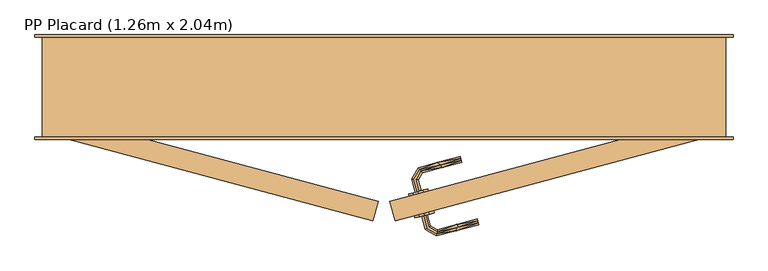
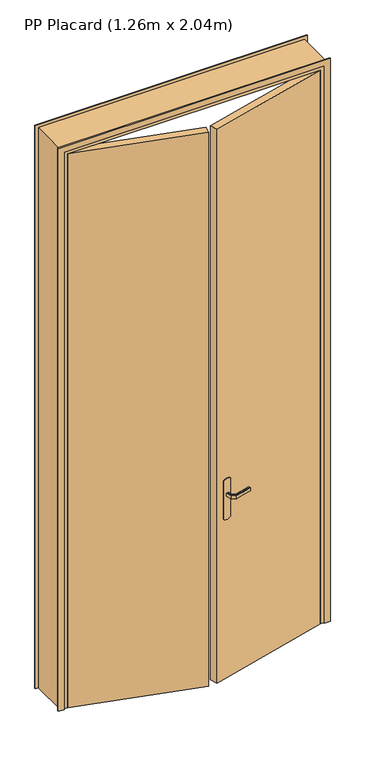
"""IFC4 building model written with IfcOpenShell, lengths in millimetres: door geometry, PP Placard (1.26m x 2.04m)."""

import ifcopenshell
import ifcopenshell.guid

model = None  # the IFC model being written
_history = None  # IfcOwnerHistory: only IFC2X3 demands one
_inside = {}  # id of a spatial element -> (the spatial element, [elements in it])
_under = {}  # id of a project, library or spatial element -> (it, [spatial elements below it])
_declared = {}  # id of a project -> (the project, [libraries it declares])
_typed = {}  # id of a type object -> (the type object, [elements of that type])
_made_of = {}  # id of a material, layer set ... -> (it, [elements and type objects made of it])


def new_model(schema):
    """Start an empty IFC model of exactly this schema.

    Asked for "IFC4X3", IfcOpenShell would pick the latest addendum, in which some entities
    have other attributes; the version numbers below select the first issue.
    IFC2X3 requires an IfcOwnerHistory on every rooted entity: one is made here for all.
    """
    global model, _history
    if schema == "IFC4X3":
        model = ifcopenshell.file(schema_version=(4, 3, 0, 0))
    else:
        model = ifcopenshell.file(schema=schema)
    _inside.clear()
    _under.clear()
    _declared.clear()
    _typed.clear()
    _made_of.clear()
    _history = None
    if model.schema == "IFC2X3":
        org = make("IfcOrganization", Name="unknown")
        user = make(
            "IfcPersonAndOrganization",
            ThePerson=make("IfcPerson", FamilyName="unknown"),
            TheOrganization=org,
        )
        app = make(
            "IfcApplication",
            ApplicationDeveloper=org,
            Version="unknown",
            ApplicationFullName="unknown",
            ApplicationIdentifier="unknown",
        )
        _history = make(
            "IfcOwnerHistory",
            OwningUser=user,
            OwningApplication=app,
            ChangeAction="ADDED",
            CreationDate=0,
        )
    return model


def make(cls, **values):
    """One entity of the class cls with the attributes given. An attribute that is None is left unset."""
    return model.create_entity(
        cls, **{name: value for name, value in values.items() if value is not None}
    )


def rooted(cls, **values):
    """An entity with a GlobalId (a new one), such as an element, a storey or a relation."""
    return make(cls, GlobalId=ifcopenshell.guid.new(), OwnerHistory=_history, **values)


def si_unit(unit_type, name, prefix=None):
    """IfcSIUnit, for example si_unit("LENGTHUNIT", "METRE", prefix="MILLI")."""
    return make("IfcSIUnit", UnitType=unit_type, Prefix=prefix, Name=name)


def assignment(units):
    """IfcUnitAssignment: the units of a project."""
    return None if units is None else make("IfcUnitAssignment", Units=units)


def point(xyz):
    """IfcCartesianPoint."""
    return None if xyz is None else make("IfcCartesianPoint", Coordinates=xyz)


def direction(xyz):
    """IfcDirection."""
    return None if xyz is None else make("IfcDirection", DirectionRatios=xyz)


def frame(location, z_axis=None, x_axis=None):
    """IfcAxis2Placement3D, a coordinate frame: its origin and axes. An axis left out is left unset."""
    return make(
        "IfcAxis2Placement3D",
        Location=point(location),
        Axis=direction(z_axis),
        RefDirection=direction(x_axis),
    )


def origin():
    """The frame at (0, 0, 0) with its axes left unset."""
    return frame((0.0, 0.0, 0.0))


def origin_with_axes():
    """The frame at (0, 0, 0) with the z axis (0, 0, 1) and the x axis (1, 0, 0) written out."""
    return frame((0.0, 0.0, 0.0), z_axis=(0.0, 0.0, 1.0), x_axis=(1.0, 0.0, 0.0))


def place(relative_to, where):
    """IfcLocalPlacement: puts the frame where relative to a parent placement (None: the world)."""
    return make(
        "IfcLocalPlacement", PlacementRelTo=relative_to, RelativePlacement=where
    )


def context(
    kind, dimensions, precision=None, world=None, true_north=None, identifier=None
):
    """IfcGeometricRepresentationContext, for example the 3D "Model" context."""
    return make(
        "IfcGeometricRepresentationContext",
        ContextIdentifier=identifier,
        ContextType=kind,
        CoordinateSpaceDimension=dimensions,
        Precision=precision,
        WorldCoordinateSystem=world,
        TrueNorth=true_north,
    )


def project(units=None, contexts=None):
    """IfcProject with its units and contexts."""
    return rooted(
        "IfcProject",
        Name="project",
        RepresentationContexts=contexts,
        UnitsInContext=assignment(units),
    )


def spatial(cls, under=None, at=None, **own):
    """A site, building, storey or space (cls), placed at a placement, below another one or the project."""
    s = rooted(cls, ObjectPlacement=at, **own)
    if under is not None:
        _under.setdefault(under.id(), (under, []))[1].append(s)
    return s


def polyline(points):
    """IfcPolyline through the points."""
    return make("IfcPolyline", Points=[point(p) for p in points])


def outline(outer, holes=None, kind="AREA"):
    """IfcArbitraryClosedProfileDef: a profile drawn as a closed curve; with holes, ...WithVoids."""
    if holes is None:
        return make("IfcArbitraryClosedProfileDef", ProfileType=kind, OuterCurve=outer)
    return make(
        "IfcArbitraryProfileDefWithVoids",
        ProfileType=kind,
        OuterCurve=outer,
        InnerCurves=holes,
    )


def extrude(swept, where, along, depth):
    """IfcExtrudedAreaSolid: the profile swept, set in the frame where, extruded along a direction by depth."""
    return make(
        "IfcExtrudedAreaSolid",
        SweptArea=swept,
        Position=where,
        ExtrudedDirection=direction(along),
        Depth=depth,
    )


def faces_of(points, faces, orient=None, outer=None):
    """IfcFace entities. A face is a list of loops; a loop is a list of indices into points, from 0.

    orient and outer hold one flag for each loop. By default every Orientation is true, the
    first loop of a face is its IfcFaceOuterBound and the others are IfcFaceBound.
    """
    made = []
    for i, loops in enumerate(faces):
        bounds = []
        for j, loop in enumerate(loops):
            is_outer = j == 0 if outer is None else outer[i][j]
            bounds.append(
                make(
                    "IfcFaceOuterBound" if is_outer else "IfcFaceBound",
                    Bound=make("IfcPolyLoop", Polygon=[points[k] for k in loop]),
                    Orientation=True if orient is None else orient[i][j],
                )
            )
        made.append(make("IfcFace", Bounds=bounds))
    return made


def faceted_brep(points, faces, orient=None, outer=None, voids=None):
    """IfcFacetedBrep: a solid bounded by flat faces; with voids (closed shells), ...WithVoids."""
    shared = [point(p) for p in points]
    hull = make("IfcClosedShell", CfsFaces=faces_of(shared, faces, orient, outer))
    if voids is None:
        return make("IfcFacetedBrep", Outer=hull)
    return make(
        "IfcFacetedBrepWithVoids",
        Outer=hull,
        Voids=[
            make(cls, CfsFaces=faces_of(shared, fs, o, b)) for cls, fs, o, b in voids
        ],
    )


def shape(context_of_items, identifier, shape_type, items):
    """IfcShapeRepresentation: the items that make up one representation, for example the "Body"."""
    return make(
        "IfcShapeRepresentation",
        ContextOfItems=context_of_items,
        RepresentationIdentifier=identifier,
        RepresentationType=shape_type,
        Items=items,
    )


def source(mapping_origin, context_of_items, identifier, shape_type, items):
    """IfcRepresentationMap: a shape defined once, which mapped items show again and again."""
    return make(
        "IfcRepresentationMap",
        MappingOrigin=mapping_origin,
        MappedRepresentation=shape(context_of_items, identifier, shape_type, items),
    )


def transform(
    local_origin,
    x_axis=None,
    y_axis=None,
    z_axis=None,
    scale=None,
    scale2=None,
    scale3=None,
    uniform=True,
):
    """IfcCartesianTransformationOperator3D, or its non-uniform kind. x_axis, y_axis, z_axis: its Axis1, 2, 3."""
    if uniform:
        return make(
            "IfcCartesianTransformationOperator3D",
            Axis1=direction(x_axis),
            Axis2=direction(y_axis),
            LocalOrigin=point(local_origin),
            Scale=scale,
            Axis3=direction(z_axis),
        )
    return make(
        "IfcCartesianTransformationOperator3DnonUniform",
        Axis1=direction(x_axis),
        Axis2=direction(y_axis),
        LocalOrigin=point(local_origin),
        Scale=scale,
        Axis3=direction(z_axis),
        Scale2=scale2,
        Scale3=scale3,
    )


def mapped(mapping_source, mapping_target):
    """IfcMappedItem: shows the shape of a source again, moved by a transform."""
    return make(
        "IfcMappedItem", MappingSource=mapping_source, MappingTarget=mapping_target
    )


def made_of(thing, what):
    """Note that an element or type object is made of a material, layer set ...; save() writes the relation."""
    if what is not None:
        _made_of.setdefault(what.id(), (what, []))[1].append(thing)
    return thing


def element(
    cls,
    number,
    at=None,
    inside=None,
    cuts=None,
    type_object=None,
    material=None,
    context=None,
    identifier="Body",
    shape_type=None,
    held_by="IfcProductDefinitionShape",
    body=None,
    shapes=None,
    **own,
):
    """One element of the class cls, such as IfcWall. Its Tag is "e" and its number.

    at: its placement. inside: the storey or other place that contains it. cuts: it is an
    opening in that element (IfcRelVoidsElement). A single representation is given by context,
    identifier, shape_type and body (its items); several are given by shapes. held_by: the class
    of the entity that holds the representations. save() writes the other relations.
    """
    e = rooted(cls, Tag="e%d" % number, ObjectPlacement=at, **own)
    if body is not None:
        shapes = [shape(context, identifier, shape_type, body)]
    if shapes is not None:
        e.Representation = make(held_by, Representations=shapes)
    if inside is not None:
        _inside.setdefault(inside.id(), (inside, []))[1].append(e)
    if cuts is not None:
        rooted(
            "IfcRelVoidsElement", RelatingBuildingElement=cuts, RelatedOpeningElement=e
        )
    if type_object is not None:
        _typed.setdefault(type_object.id(), (type_object, []))[1].append(e)
    return made_of(e, material)


def aggregate(whole, parts):
    """IfcRelAggregates: a whole, such as a stair, and the parts it consists of."""
    return rooted("IfcRelAggregates", RelatingObject=whole, RelatedObjects=parts)


def save(model, path):
    """Write the relations noted so far, then the file.

    IfcRelAggregates (storeys below a building ...), IfcRelContainedInSpatialStructure (elements
    in a storey), IfcRelDefinesByType, IfcRelAssociatesMaterial and IfcRelDeclares: one each for
    every whole, place, type object, material and project.
    """
    for whole, parts in _under.values():
        aggregate(whole, parts)
    for where, things in _inside.values():
        rooted(
            "IfcRelContainedInSpatialStructure",
            RelatedElements=things,
            RelatingStructure=where,
        )
    for kind, things in _typed.values():
        rooted("IfcRelDefinesByType", RelatedObjects=things, RelatingType=kind)
    for what, things in _made_of.values():
        rooted("IfcRelAssociatesMaterial", RelatedObjects=things, RelatingMaterial=what)
    for by, libraries in _declared.values():
        rooted("IfcRelDeclares", RelatingContext=by, RelatedDefinitions=libraries)
    model.write(path)


def pp_placard_1_26m_x_2_04m_73cf4f1e(model_context):
    return source(origin(), model_context, "Body", "SolidModel", [
        extrude(outline(polyline([(0.0, -15.0), (0.0, 15.0), (3030.0, 15.0), (3030.0, 1355.0), (0.0, 1355.0), (0.0, 1385.0), (3060.0, 1385.0), (3060.0, -15.0), (0.0, -15.0)])), frame((0.0, 200.0, 0.0), z_axis=(0.0, 1.0, 0.0), x_axis=(0.0, 0.0, 1.0)), (0.0, 0.0, 1.0), 5.0),
        extrude(outline(polyline([(0.0, -15.0), (0.0, 15.0), (3030.0, 15.0), (3030.0, 1355.0), (0.0, 1355.0), (0.0, 1385.0), (3060.0, 1385.0), (3060.0, -15.0), (0.0, -15.0)])), frame((0.0, -5.0, 0.0), z_axis=(0.0, 1.0, 0.0), x_axis=(0.0, 0.0, 1.0)), (0.0, 0.0, 1.0), 5.0),
        faceted_brep([(0.0, 0.0, 0.0), (0.0, 200.0, 0.0), (50.0, 200.0, 0.0), (50.0, 40.0, 0.0), (35.0, 40.0, 0.0), (35.0, 0.0, 0.0), (0.0, 0.0, 3045.0), (0.0, 200.0, 3045.0), (1370.0, 200.0, 3045.0), (1370.0, 200.0, 0.0), (1320.0, 200.0, 0.0), (1320.0, 200.0, 2995.0), (50.0, 200.0, 2995.0), (50.0, 40.0, 2995.0), (1320.0, 40.0, 2995.0), (1320.0, 40.0, 0.0), (1335.0, 40.0, 0.0), (1335.0, 40.0, 3010.0), (35.0, 40.0, 3010.0), (35.0, 0.0, 3010.0), (1335.0, 0.0, 3010.0), (1335.0, 0.0, 0.0), (1370.0, 0.0, 0.0), (1370.0, 0.0, 3045.0)], [[[0, 1, 2, 3, 4, 5]], [[1, 0, 6, 7]], [[2, 1, 7, 8, 9, 10, 11, 12]], [[3, 2, 12, 13]], [[4, 3, 13, 14, 15, 16, 17, 18]], [[5, 4, 18, 19]], [[0, 5, 19, 20, 21, 22, 23, 6]], [[8, 23, 22, 9]], [[22, 21, 16, 15, 10, 9]], [[14, 11, 10, 15]], [[20, 17, 16, 21]], [[7, 6, 23, 8]], [[13, 12, 11, 14]], [[19, 18, 17, 20]]]),
        extrude(outline(polyline([(673.2045489, -129.5953463), (662.8517871, -168.2323793), (35.0, 0.0), (45.3527618, 38.6370331), (673.2045489, -129.5953463)])), origin_with_axes(), (0.0, 0.0, 1.0), 3010.0),
        faceted_brep([(764.4415694, -158.0570516, 1007.7804408), (768.354146, -157.0086799, 1007.7804408), (772.1934127, -155.9799515, 1007.0), (772.1934127, -155.9799515, 993.0), (768.354146, -157.0086799, 992.2195592), (764.4415694, -158.0570516, 992.2195592), (760.6023028, -159.08578, 993.0), (760.6023028, -159.08578, 1007.0), (767.7588954, -185.7945474, 1007.0), (771.1720488, -183.1755427, 1007.7804408), (790.827837, -194.5238173, 1007.7804408), (791.4001076, -190.1769909, 1007.7804408), (774.6503756, -180.5065287, 1007.7804408), (778.063529, -177.8875239, 1007.0), (778.063529, -177.8875239, 993.0), (774.6503756, -180.5065287, 992.2195592), (791.4001076, -190.1769909, 992.2195592), (790.827837, -194.5238173, 992.2195592), (771.1720488, -183.1755427, 992.2195592), (767.7588954, -185.7945474, 993.0), (790.2662891, -198.7891972, 1007.0), (791.9616555, -185.911611, 1007.0), (791.9616555, -185.911611, 993.0), (790.2662891, -198.7891972, 993.0), (874.9214104, -176.1059258, 993.0), (873.892682, -172.2666592, 992.2195592), (872.8443102, -168.3540826, 992.2195592), (871.8155818, -164.5148159, 993.0), (871.8155818, -164.5148159, 1007.0), (872.8443102, -168.3540826, 1007.7804408), (873.892682, -172.2666592, 1007.7804408), (874.9214104, -176.1059258, 1007.0), (828.836178, -188.4544266, 1007.0), (832.6463948, -181.221825, 1007.8786868), (831.8886187, -175.2132135, 1007.0), (831.8886187, -175.2132135, 993.0), (832.6463946, -181.2218252, 992.1213132), (828.8361809, -188.4544259, 993.0)], [[[0, 1, 2, 3, 4, 5, 6, 7]], [[8, 9, 0, 7]], [[9, 10, 11, 12, 1, 0]], [[12, 13, 2, 1]], [[3, 2, 13, 14]], [[14, 15, 4, 3]], [[15, 16, 17, 18, 5, 4]], [[18, 19, 6, 5]], [[7, 6, 19, 8]], [[20, 10, 9, 8]], [[11, 21, 13, 12]], [[14, 13, 21, 22]], [[22, 16, 15, 14]], [[17, 23, 19, 18]], [[8, 19, 23, 20]], [[24, 25, 26, 27, 28, 29, 30, 31]], [[32, 30, 33]], [[31, 30, 32]], [[10, 20, 32]], [[33, 34, 11]], [[21, 11, 34]], [[34, 29, 28]], [[30, 29, 33]], [[29, 34, 33]], [[10, 32, 33]], [[10, 33, 11]], [[22, 21, 34, 28, 27, 35]], [[35, 26, 36]], [[37, 36, 25]], [[22, 35, 16]], [[35, 27, 26]], [[24, 37, 25]], [[23, 17, 37]], [[37, 17, 36]], [[17, 16, 36]], [[16, 35, 36]], [[25, 36, 26]], [[20, 23, 37, 24, 31, 32]]]),
        extrude(outline(polyline([(0.0, 0.0), (3.0658951, 9.9818657), (212.1249722, 29.8389109), (217.015302, 20.6127508), (219.3510918, 10.4352539), (218.9731616, 0.0), (215.9072666, -9.9818657), (6.8481894, -29.8389108), (1.9578596, -20.6127508), (-0.3779302, -10.4352539), (0.0, 0.0)])), frame((776.3978577, -154.8533738, 866.0039831), z_axis=(-0.2588190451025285, 0.9659258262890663, 0.0), x_axis=(-0.09133539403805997, -0.024473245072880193, 0.9955194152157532)), (0.0, 0.0, 1.0), 5.0),
        faceted_brep([(751.5006172, -109.7607603, 1007.7804408), (747.6613505, -110.7894887, 1007.0), (747.6613505, -110.7894887, 993.0), (751.5006172, -109.7607603, 992.2195592), (755.4131937, -108.7123886, 992.2195592), (759.2524604, -107.6836602, 993.0), (759.2524604, -107.6836602, 1007.0), (755.4131937, -108.7123886, 1007.7804408), (753.4328613, -85.9646204, 993.0), (753.4328613, -85.9646204, 1007.0), (749.1674813, -85.4030725, 1007.7804408), (758.9351769, -68.4849275, 1007.7804408), (756.2661629, -65.0066008, 1007.7804408), (744.820655, -84.8308019, 1007.7804408), (740.555275, -84.269254, 1007.0), (740.555275, -84.269254, 993.0), (744.820655, -84.8308019, 992.2195592), (756.2661629, -65.0066008, 992.2195592), (758.9351769, -68.4849275, 992.2195592), (749.1674813, -85.4030725, 992.2195592), (761.5541816, -71.898081, 993.0), (761.5541816, -71.898081, 1007.0), (753.6471581, -61.5934473, 1007.0), (753.6471581, -61.5934473, 993.0), (841.301503, -50.5298506, 993.0), (840.2727746, -46.6905839, 992.2195592), (839.2244029, -42.7780074, 992.2195592), (838.1956744, -38.9387407, 993.0), (838.1956744, -38.9387407, 1007.0), (839.2244029, -42.7780074, 1007.7804408), (840.2727746, -46.6905839, 1007.7804408), (841.301503, -50.5298506, 1007.0), (801.4278308, -61.2139689, 993.0), (801.4278423, -61.2139658, 1007.0), (799.0797898, -55.6314674, 1007.8786868), (792.2170469, -51.2586768, 1007.0), (792.2170455, -51.2586772, 993.0), (799.0797901, -55.6314675, 992.1213132)], [[[0, 1, 2, 3, 4, 5, 6, 7]], [[6, 5, 8, 9]], [[9, 10, 7, 6]], [[10, 11, 12, 13, 0, 7]], [[13, 14, 1, 0]], [[2, 1, 14, 15]], [[15, 16, 3, 2]], [[16, 17, 18, 19, 4, 3]], [[19, 8, 5, 4]], [[9, 8, 20, 21]], [[21, 11, 10, 9]], [[12, 22, 14, 13]], [[15, 14, 22, 23]], [[23, 17, 16, 15]], [[18, 20, 8, 19]], [[24, 25, 26, 27, 28, 29, 30, 31]], [[21, 20, 32, 24, 31, 33]], [[33, 30, 34]], [[35, 34, 29]], [[21, 33, 11]], [[33, 31, 30]], [[28, 35, 29]], [[22, 12, 35]], [[35, 12, 34]], [[12, 11, 34]], [[11, 33, 34]], [[29, 34, 30]], [[22, 35, 28, 27, 36, 23]], [[36, 26, 37]], [[27, 26, 36]], [[17, 23, 36]], [[37, 32, 18]], [[20, 18, 32]], [[32, 25, 24]], [[26, 25, 37]], [[25, 32, 37]], [[17, 36, 37]], [[17, 37, 18]]]),
        extrude(outline(polyline([(696.7954511, -129.5953463), (1324.6472382, 38.6370331), (1335.0, 0.0), (707.1482129, -168.2323793), (696.7954511, -129.5953463)])), origin_with_axes(), (0.0, 0.0, 1.0), 3010.0),
        extrude(outline(polyline([(0.0, 0.0), (3.0658951, 9.9818657), (212.1249723, 29.8389108), (217.015302, 20.6127508), (219.3510918, 10.4352539), (218.9731616, 0.0), (215.9072666, -9.9818657), (6.8481894, -29.8389109), (1.9578596, -20.6127508), (-0.3779302, -10.4352539), (0.0, 0.0)])), frame((764.7510007, -111.3867116, 866.0039831), z_axis=(-0.25881904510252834, 0.9659258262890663, 0.0), x_axis=(-0.09133539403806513, -0.0244732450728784, 0.9955194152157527)), (0.0, 0.0, 1.0), 5.0),
    ])


if __name__ == "__main__":
    model = new_model("IFC4")
    model_context = context("Model", 3, world=origin())
    ifc_project = project(units=[si_unit("LENGTHUNIT", "METRE", prefix="MILLI")], contexts=[model_context])
    site = spatial("IfcSite", under=ifc_project)
    building = spatial("IfcBuilding", under=site)
    placement = place(None, origin())
    pp_placard_1_26m_x_2_04m_shape = pp_placard_1_26m_x_2_04m_73cf4f1e(model_context)
    element("IfcDoor", 1, ObjectType="PP Placard (1.26m x 2.04m)", at=placement, inside=building, context=model_context, shape_type="MappedRepresentation", body=[
        mapped(pp_placard_1_26m_x_2_04m_shape, transform((0.0, 0.0, 0.0), x_axis=(1.0, 0.0, 0.0), y_axis=(0.0, 1.0, 0.0), z_axis=(0.0, 0.0, 1.0))),
    ])
    save(model, "model.ifc")
